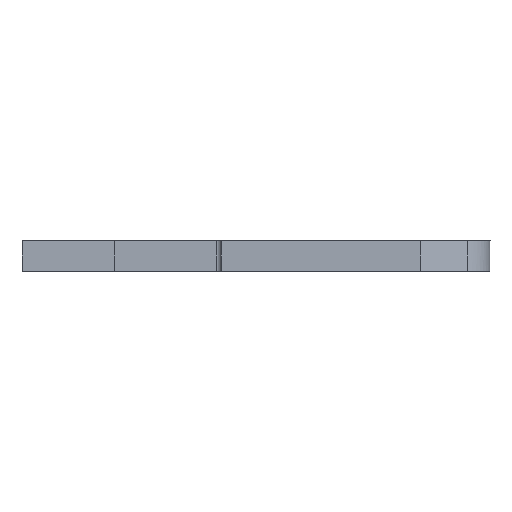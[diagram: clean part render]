
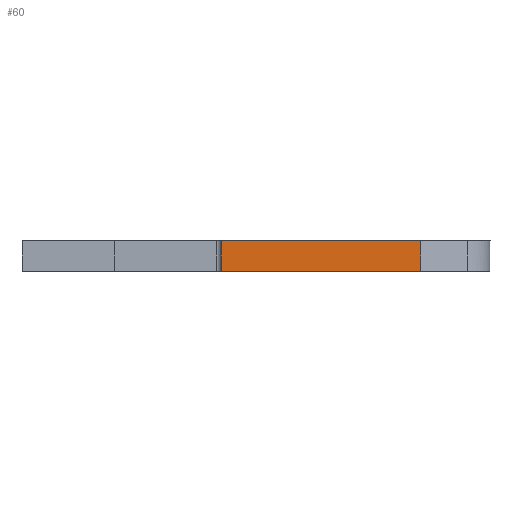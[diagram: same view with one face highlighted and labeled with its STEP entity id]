
A CAD part, left-side view. The second image highlights one B-rep face of the part: STEP entity #60.
In plain terms, the highlighted planar face has unit normal (-1, 0, 0).
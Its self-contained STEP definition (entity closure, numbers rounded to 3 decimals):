
#60=ADVANCED_FACE('',(#108),#1836,.T.);
#108=FACE_OUTER_BOUND('',#156,.T.);
#156=EDGE_LOOP('',(#264,#265,#266,#267));
#264=ORIENTED_EDGE('',*,*,#1506,.T.);
#265=ORIENTED_EDGE('',*,*,#1507,.T.);
#266=ORIENTED_EDGE('',*,*,#1508,.T.);
#267=ORIENTED_EDGE('',*,*,#1504,.F.);
#537=PCURVE('',#1849,#813);
#540=PCURVE('',#1836,#816);
#541=PCURVE('',#1836,#817);
#542=PCURVE('',#1836,#818);
#543=PCURVE('',#1836,#819);
#547=PCURVE('',#1837,#823);
#645=PCURVE('',#1846,#921);
#702=PCURVE('',#1847,#978);
#813=DEFINITIONAL_REPRESENTATION('',(#1119),#3611);
#816=DEFINITIONAL_REPRESENTATION('',(#1123),#3611);
#817=DEFINITIONAL_REPRESENTATION('',(#1125),#3611);
#818=DEFINITIONAL_REPRESENTATION('',(#1127),#3611);
#819=DEFINITIONAL_REPRESENTATION('',(#1128),#3611);
#823=DEFINITIONAL_REPRESENTATION('',(#1134),#3611);
#921=DEFINITIONAL_REPRESENTATION('',(#1260),#3611);
#978=DEFINITIONAL_REPRESENTATION('',(#1289),#3611);
#1119=B_SPLINE_CURVE_WITH_KNOTS('',1,(#2629,#2630),.UNSPECIFIED.,.F.,.F.,
(2,2),(0.,6.),.UNSPECIFIED.);
#1122=B_SPLINE_CURVE_WITH_KNOTS('',1,(#2644,#2645),.UNSPECIFIED.,.F.,.F.,
(2,2),(699.446,738.446),.UNSPECIFIED.);
#1123=B_SPLINE_CURVE_WITH_KNOTS('',1,(#2646,#2647),.UNSPECIFIED.,.F.,.F.,
(2,2),(699.446,738.446),.UNSPECIFIED.);
#1124=B_SPLINE_CURVE_WITH_KNOTS('',1,(#2648,#2649),.UNSPECIFIED.,.F.,.F.,
(2,2),(0.,6.),.UNSPECIFIED.);
#1125=B_SPLINE_CURVE_WITH_KNOTS('',1,(#2650,#2651),.UNSPECIFIED.,.F.,.F.,
(2,2),(0.,6.),.UNSPECIFIED.);
#1126=B_SPLINE_CURVE_WITH_KNOTS('',1,(#2652,#2653),.UNSPECIFIED.,.F.,.F.,
(2,2),(-738.446,-699.446),.UNSPECIFIED.);
#1127=B_SPLINE_CURVE_WITH_KNOTS('',1,(#2654,#2655),.UNSPECIFIED.,.F.,.F.,
(2,2),(-738.446,-699.446),.UNSPECIFIED.);
#1128=B_SPLINE_CURVE_WITH_KNOTS('',1,(#2656,#2657),.UNSPECIFIED.,.F.,.F.,
(2,2),(0.,6.),.UNSPECIFIED.);
#1134=B_SPLINE_CURVE_WITH_KNOTS('',1,(#2668,#2669),.UNSPECIFIED.,.F.,.F.,
(2,2),(0.,6.),.UNSPECIFIED.);
#1260=B_SPLINE_CURVE_WITH_KNOTS('',1,(#3120,#3121),.UNSPECIFIED.,.F.,.F.,
(2,2),(699.446,738.446),.UNSPECIFIED.);
#1289=B_SPLINE_CURVE_WITH_KNOTS('',1,(#3366,#3367),.UNSPECIFIED.,.F.,.F.,
(2,2),(-738.446,-699.446),.UNSPECIFIED.);
#1366=SURFACE_CURVE('',#1612,(#537,#543),.PCURVE_S1.);
#1368=SURFACE_CURVE('',#1122,(#540,#645),.PCURVE_S1.);
#1369=SURFACE_CURVE('',#1124,(#541,#547),.PCURVE_S1.);
#1370=SURFACE_CURVE('',#1126,(#542,#702),.PCURVE_S1.);
#1504=EDGE_CURVE('',#1758,#1759,#1366,.T.);
#1506=EDGE_CURVE('',#1758,#1760,#1368,.T.);
#1507=EDGE_CURVE('',#1760,#1761,#1369,.T.);
#1508=EDGE_CURVE('',#1761,#1759,#1370,.T.);
#1612=(
BOUNDED_CURVE()
B_SPLINE_CURVE(1,(#2627,#2628),.UNSPECIFIED.,.F.,.F.)
B_SPLINE_CURVE_WITH_KNOTS((2,2),(0.,6.),.UNSPECIFIED.)
CURVE()
GEOMETRIC_REPRESENTATION_ITEM()
RATIONAL_B_SPLINE_CURVE((1.,1.))
REPRESENTATION_ITEM('')
);
#1758=VERTEX_POINT('',#2386);
#1759=VERTEX_POINT('',#2387);
#1760=VERTEX_POINT('',#2388);
#1761=VERTEX_POINT('',#2389);
#1836=PLANE('',#1904);
#1837=PLANE('',#1905);
#1846=PLANE('',#1914);
#1847=PLANE('',#1915);
#1849=(
BOUNDED_SURFACE()
B_SPLINE_SURFACE(2,1,((#1964,#1965),(#1966,#1967),(#1968,#1969),(#1970,#1971),
(#1972,#1973),(#1974,#1975),(#1976,#1977),(#1978,#1979),(#1980,#1981)),
 .UNSPECIFIED.,.F.,.F.,.F.)
B_SPLINE_SURFACE_WITH_KNOTS((3,2,2,2,3),(2,2),(694.733,695.911,
697.089,698.268,699.446),(0.,6.),
 .UNSPECIFIED.)
GEOMETRIC_REPRESENTATION_ITEM()
RATIONAL_B_SPLINE_SURFACE(((1.,1.),(0.831,0.831),
(1.,1.),(0.831,0.831),(1.,1.),(0.831,
0.831),(1.,1.),(0.831,0.831),(1.,1.)))
REPRESENTATION_ITEM('')
SURFACE()
);
#1904=AXIS2_PLACEMENT_3D('',#1982,#1929,$);
#1905=AXIS2_PLACEMENT_3D('',#1983,#1930,$);
#1914=AXIS2_PLACEMENT_3D('',#2216,#1939,$);
#1915=AXIS2_PLACEMENT_3D('',#2217,#1940,$);
#1929=DIRECTION('',(-1.,0.,0.));
#1930=DIRECTION('',(-0.909,-0.417,0.));
#1939=DIRECTION('',(0.,0.,-1.));
#1940=DIRECTION('',(0.,0.,1.));
#1964=CARTESIAN_POINT('',(682.,75.,18.));
#1965=CARTESIAN_POINT('',(682.,75.,24.));
#1966=CARTESIAN_POINT('',(682.,75.668,18.));
#1967=CARTESIAN_POINT('',(682.,75.668,24.));
#1968=CARTESIAN_POINT('',(682.617,75.924,18.));
#1969=CARTESIAN_POINT('',(682.617,75.924,24.));
#1970=CARTESIAN_POINT('',(683.235,76.18,18.));
#1971=CARTESIAN_POINT('',(683.235,76.18,24.));
#1972=CARTESIAN_POINT('',(683.707,75.707,18.));
#1973=CARTESIAN_POINT('',(683.707,75.707,24.));
#1974=CARTESIAN_POINT('',(684.18,75.235,18.));
#1975=CARTESIAN_POINT('',(684.18,75.235,24.));
#1976=CARTESIAN_POINT('',(683.924,74.617,18.));
#1977=CARTESIAN_POINT('',(683.924,74.617,24.));
#1978=CARTESIAN_POINT('',(683.668,74.,18.));
#1979=CARTESIAN_POINT('',(683.668,74.,24.));
#1980=CARTESIAN_POINT('',(683.,74.,18.));
#1981=CARTESIAN_POINT('',(683.,74.,24.));
#1982=CARTESIAN_POINT('',(683.,74.,18.));
#1983=CARTESIAN_POINT('',(683.,35.,18.));
#2216=CARTESIAN_POINT('',(640.5,10.063,18.));
#2217=CARTESIAN_POINT('',(640.5,10.063,24.));
#2386=CARTESIAN_POINT('',(683.,74.,18.));
#2387=CARTESIAN_POINT('',(683.,74.,24.));
#2388=CARTESIAN_POINT('',(683.,35.,18.));
#2389=CARTESIAN_POINT('',(683.,35.,24.));
#2627=CARTESIAN_POINT('',(683.,74.,18.));
#2628=CARTESIAN_POINT('',(683.,74.,24.));
#2629=CARTESIAN_POINT('',(699.446,0.));
#2630=CARTESIAN_POINT('',(699.446,6.));
#2644=CARTESIAN_POINT('',(683.,74.,18.));
#2645=CARTESIAN_POINT('',(683.,35.,18.));
#2646=CARTESIAN_POINT('',(699.446,0.));
#2647=CARTESIAN_POINT('',(738.446,0.));
#2648=CARTESIAN_POINT('',(683.,35.,18.));
#2649=CARTESIAN_POINT('',(683.,35.,24.));
#2650=CARTESIAN_POINT('',(738.446,0.));
#2651=CARTESIAN_POINT('',(738.446,6.));
#2652=CARTESIAN_POINT('',(683.,35.,24.));
#2653=CARTESIAN_POINT('',(683.,74.,24.));
#2654=CARTESIAN_POINT('',(738.446,6.));
#2655=CARTESIAN_POINT('',(699.446,6.));
#2656=CARTESIAN_POINT('',(699.446,0.));
#2657=CARTESIAN_POINT('',(699.446,6.));
#2668=CARTESIAN_POINT('',(738.446,0.));
#2669=CARTESIAN_POINT('',(738.446,6.));
#3120=CARTESIAN_POINT('',(29.,-35.5));
#3121=CARTESIAN_POINT('',(-10.,-35.5));
#3366=CARTESIAN_POINT('',(-35.5,-10.));
#3367=CARTESIAN_POINT('',(-35.5,29.));
#3611=(
GEOMETRIC_REPRESENTATION_CONTEXT(2)
PARAMETRIC_REPRESENTATION_CONTEXT()
REPRESENTATION_CONTEXT('pspace','')
);
